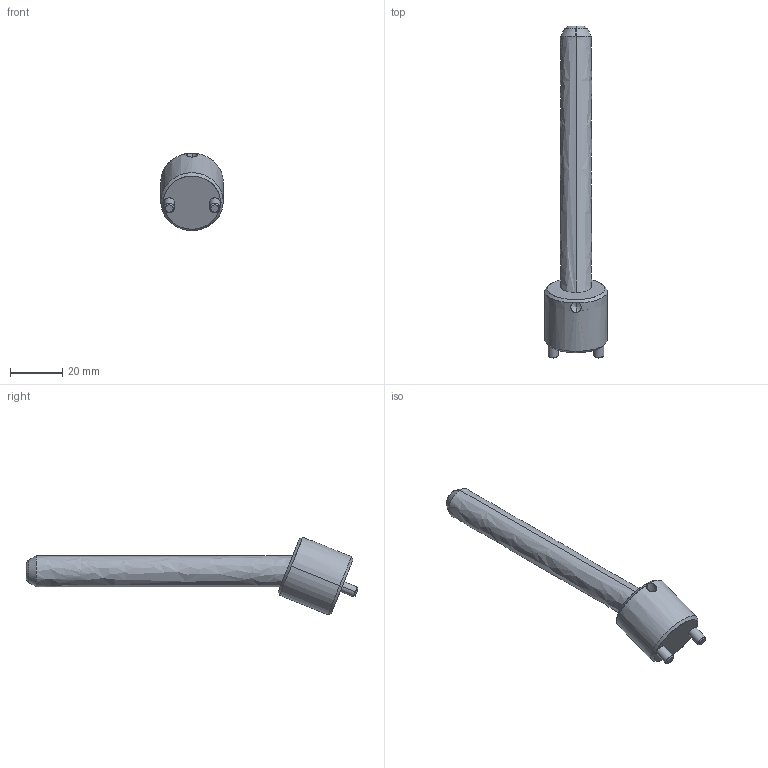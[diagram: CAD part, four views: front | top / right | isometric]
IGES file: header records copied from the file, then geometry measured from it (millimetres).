
Start section: START RECORD GO HERE.
Global section: file name: CI2212100.igs; native system: DASSAULT SYSTEMES CATIA V5 R20 - www.3ds.com; preprocessor: CATIA Version 5 Release 20 ; author: r.borello; organization: CFTORINO; date: 20190621.122126; units: millimetre
Bounding box: 24 x 127.46 x 29.7 mm (x, y, z)
Surface area: 7953 mm2 (no closed solid volume)
Topology: 0 solids, 0 shells, 39 faces, 168 edges, 166 vertices
Faces by surface type: revolution 32, plane 7
